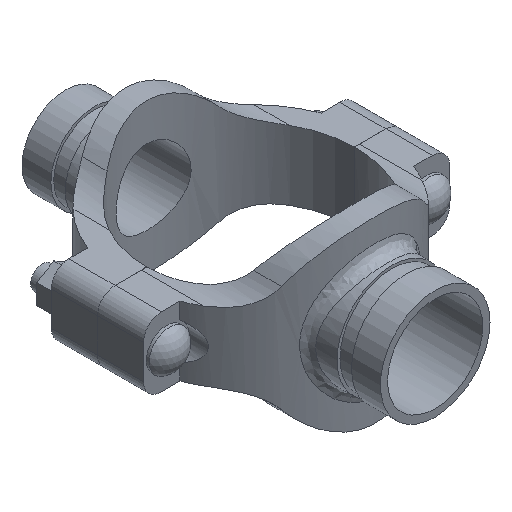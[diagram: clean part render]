
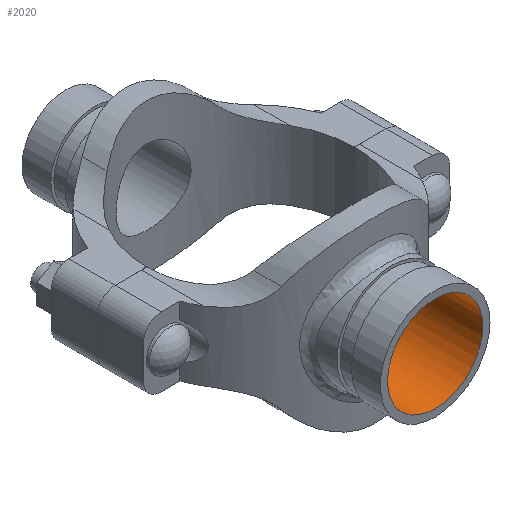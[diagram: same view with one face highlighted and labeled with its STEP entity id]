
A CAD part, isometric view. The second image highlights one B-rep face of the part: STEP entity #2020.
In plain terms, the highlighted cylindrical face has radius 26.194 mm (diameter 52.387 mm), a full revolution.
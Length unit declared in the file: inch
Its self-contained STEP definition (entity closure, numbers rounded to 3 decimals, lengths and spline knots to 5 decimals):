
#52=B_SPLINE_CURVE_WITH_KNOTS('',3,(#4060,#4061,#4062,#4063,#4064,#4065,
#4066,#4067,#4068,#4069,#4070,#4071,#4072,#4073,#4074,#4075,#4076,#4077,
#4078,#4079,#4080,#4081,#4082,#4083,#4084,#4085,#4086,#4087,#4088,#4089,
#4090,#4091,#4092,#4093,#4094,#4095,#4096,#4097,#4098,#4099,#4100,#4101,
#4102,#4103,#4104,#4105,#4106,#4107,#4108,#4109,#4110,#4111,#4112,#4113,
#4114,#4115,#4116,#4117,#4118,#4119,#4120,#4121,#4122,#4123,#4124,#4125),
 .UNSPECIFIED.,.T.,.F.,(4,2,2,2,2,2,2,2,2,2,2,2,2,2,2,2,2,2,2,2,2,2,2,2,
2,2,2,2,2,2,2,2,4),(0.,0.50208,1.00416,1.50624,
2.00833,2.50948,3.01064,3.5118,4.01295,
4.51411,5.01527,5.51643,6.01758,6.51967,
7.02175,7.52383,8.02591,8.52799,9.03007,
9.53215,10.03423,10.53539,11.03655,11.53771,
12.03886,12.54002,13.04118,13.54234,14.04349,
14.54557,15.04766,15.54974,16.05182),
 .UNSPECIFIED.);
#99=CYLINDRICAL_SURFACE('',#2261,1.03125);
#218=FACE_OUTER_BOUND('',#342,.T.);
#342=EDGE_LOOP('',(#1624,#1625,#1626,#1627));
#494=LINE('',#4059,#644);
#644=VECTOR('',#2736,1.03125);
#748=CIRCLE('',#2262,1.03125);
#917=VERTEX_POINT('',#4056);
#918=VERTEX_POINT('',#4058);
#1168=EDGE_CURVE('',#917,#917,#748,.T.);
#1169=EDGE_CURVE('',#917,#918,#494,.T.);
#1170=EDGE_CURVE('',#918,#918,#52,.T.);
#1624=ORIENTED_EDGE('',*,*,#1168,.F.);
#1625=ORIENTED_EDGE('',*,*,#1169,.T.);
#1626=ORIENTED_EDGE('',*,*,#1170,.F.);
#1627=ORIENTED_EDGE('',*,*,#1169,.F.);
#2020=ADVANCED_FACE('',(#218),#99,.F.);
#2261=AXIS2_PLACEMENT_3D('',#4055,#2732,#2733);
#2262=AXIS2_PLACEMENT_3D('',#4057,#2734,#2735);
#2732=DIRECTION('center_axis',(0.,-1.,0.));
#2733=DIRECTION('ref_axis',(-1.,0.,0.));
#2734=DIRECTION('center_axis',(0.,-1.,0.));
#2735=DIRECTION('ref_axis',(-1.,0.,0.));
#2736=DIRECTION('',(0.,-1.,0.));
#4055=CARTESIAN_POINT('Origin',(0.,4.,0.));
#4056=CARTESIAN_POINT('',(1.03125,4.,0.));
#4057=CARTESIAN_POINT('Origin',(0.,4.,0.));
#4058=CARTESIAN_POINT('',(1.03125,1.99976,0.));
#4059=CARTESIAN_POINT('',(1.03125,4.,0.));
#4060=CARTESIAN_POINT('Ctrl Pts',(1.03125,1.99976,0.));
#4061=CARTESIAN_POINT('Ctrl Pts',(1.03125,1.99976,-0.06589));
#4062=CARTESIAN_POINT('Ctrl Pts',(1.02483,2.00311,-0.13364));
#4063=CARTESIAN_POINT('Ctrl Pts',(0.99824,2.01649,-0.26771));
#4064=CARTESIAN_POINT('Ctrl Pts',(0.97807,2.02651,-0.33403));
#4065=CARTESIAN_POINT('Ctrl Pts',(0.92518,2.05119,-0.46069));
#4066=CARTESIAN_POINT('Ctrl Pts',(0.89242,2.06585,-0.52115));
#4067=CARTESIAN_POINT('Ctrl Pts',(0.81708,2.09679,-0.63277));
#4068=CARTESIAN_POINT('Ctrl Pts',(0.77449,2.11305,-0.68392));
#4069=CARTESIAN_POINT('Ctrl Pts',(0.68401,2.14404,-0.7744));
#4070=CARTESIAN_POINT('Ctrl Pts',(0.63289,2.15993,-0.81698));
#4071=CARTESIAN_POINT('Ctrl Pts',(0.52126,2.18955,-0.89236));
#4072=CARTESIAN_POINT('Ctrl Pts',(0.46073,2.20326,-0.92516));
#4073=CARTESIAN_POINT('Ctrl Pts',(0.33395,2.22601,-0.9781));
#4074=CARTESIAN_POINT('Ctrl Pts',(0.26757,2.23505,-0.99828));
#4075=CARTESIAN_POINT('Ctrl Pts',(0.13348,2.24705,-1.02486));
#4076=CARTESIAN_POINT('Ctrl Pts',(0.06577,2.25,-1.03125));
#4077=CARTESIAN_POINT('Ctrl Pts',(-0.06577,2.25,-1.03125));
#4078=CARTESIAN_POINT('Ctrl Pts',(-0.13348,2.24705,-1.02486));
#4079=CARTESIAN_POINT('Ctrl Pts',(-0.26757,2.23505,-0.99828));
#4080=CARTESIAN_POINT('Ctrl Pts',(-0.33395,2.22601,-0.9781));
#4081=CARTESIAN_POINT('Ctrl Pts',(-0.46073,2.20326,-0.92516));
#4082=CARTESIAN_POINT('Ctrl Pts',(-0.52126,2.18955,-0.89236));
#4083=CARTESIAN_POINT('Ctrl Pts',(-0.63289,2.15993,-0.81698));
#4084=CARTESIAN_POINT('Ctrl Pts',(-0.68401,2.14404,-0.7744));
#4085=CARTESIAN_POINT('Ctrl Pts',(-0.77449,2.11305,-0.68392));
#4086=CARTESIAN_POINT('Ctrl Pts',(-0.81708,2.09679,-0.63277));
#4087=CARTESIAN_POINT('Ctrl Pts',(-0.89242,2.06585,-0.52115));
#4088=CARTESIAN_POINT('Ctrl Pts',(-0.92518,2.05119,-0.46069));
#4089=CARTESIAN_POINT('Ctrl Pts',(-0.97807,2.02651,-0.33403));
#4090=CARTESIAN_POINT('Ctrl Pts',(-0.99824,2.01649,-0.26771));
#4091=CARTESIAN_POINT('Ctrl Pts',(-1.02483,2.00311,-0.13364));
#4092=CARTESIAN_POINT('Ctrl Pts',(-1.03125,1.99976,-0.06589));
#4093=CARTESIAN_POINT('Ctrl Pts',(-1.03125,1.99976,0.06589));
#4094=CARTESIAN_POINT('Ctrl Pts',(-1.02483,2.00311,0.13364));
#4095=CARTESIAN_POINT('Ctrl Pts',(-0.99824,2.01649,0.26771));
#4096=CARTESIAN_POINT('Ctrl Pts',(-0.97807,2.02651,0.33403));
#4097=CARTESIAN_POINT('Ctrl Pts',(-0.92518,2.05119,0.46069));
#4098=CARTESIAN_POINT('Ctrl Pts',(-0.89242,2.06585,0.52115));
#4099=CARTESIAN_POINT('Ctrl Pts',(-0.81708,2.09679,0.63277));
#4100=CARTESIAN_POINT('Ctrl Pts',(-0.77449,2.11305,0.68392));
#4101=CARTESIAN_POINT('Ctrl Pts',(-0.68401,2.14404,0.7744));
#4102=CARTESIAN_POINT('Ctrl Pts',(-0.63289,2.15993,0.81698));
#4103=CARTESIAN_POINT('Ctrl Pts',(-0.52126,2.18955,0.89236));
#4104=CARTESIAN_POINT('Ctrl Pts',(-0.46073,2.20326,0.92516));
#4105=CARTESIAN_POINT('Ctrl Pts',(-0.33395,2.22601,0.9781));
#4106=CARTESIAN_POINT('Ctrl Pts',(-0.26757,2.23505,0.99828));
#4107=CARTESIAN_POINT('Ctrl Pts',(-0.13348,2.24705,1.02486));
#4108=CARTESIAN_POINT('Ctrl Pts',(-0.06577,2.25,1.03125));
#4109=CARTESIAN_POINT('Ctrl Pts',(0.06577,2.25,1.03125));
#4110=CARTESIAN_POINT('Ctrl Pts',(0.13348,2.24705,1.02486));
#4111=CARTESIAN_POINT('Ctrl Pts',(0.26757,2.23505,0.99828));
#4112=CARTESIAN_POINT('Ctrl Pts',(0.33395,2.22601,0.9781));
#4113=CARTESIAN_POINT('Ctrl Pts',(0.46073,2.20326,0.92516));
#4114=CARTESIAN_POINT('Ctrl Pts',(0.52126,2.18955,0.89236));
#4115=CARTESIAN_POINT('Ctrl Pts',(0.63289,2.15993,0.81698));
#4116=CARTESIAN_POINT('Ctrl Pts',(0.68401,2.14404,0.7744));
#4117=CARTESIAN_POINT('Ctrl Pts',(0.77449,2.11305,0.68392));
#4118=CARTESIAN_POINT('Ctrl Pts',(0.81708,2.09679,0.63277));
#4119=CARTESIAN_POINT('Ctrl Pts',(0.89242,2.06585,0.52115));
#4120=CARTESIAN_POINT('Ctrl Pts',(0.92518,2.05119,0.46069));
#4121=CARTESIAN_POINT('Ctrl Pts',(0.97807,2.02651,0.33403));
#4122=CARTESIAN_POINT('Ctrl Pts',(0.99824,2.01649,0.26771));
#4123=CARTESIAN_POINT('Ctrl Pts',(1.02483,2.00311,0.13364));
#4124=CARTESIAN_POINT('Ctrl Pts',(1.03125,1.99976,0.06589));
#4125=CARTESIAN_POINT('Ctrl Pts',(1.03125,1.99976,0.));
